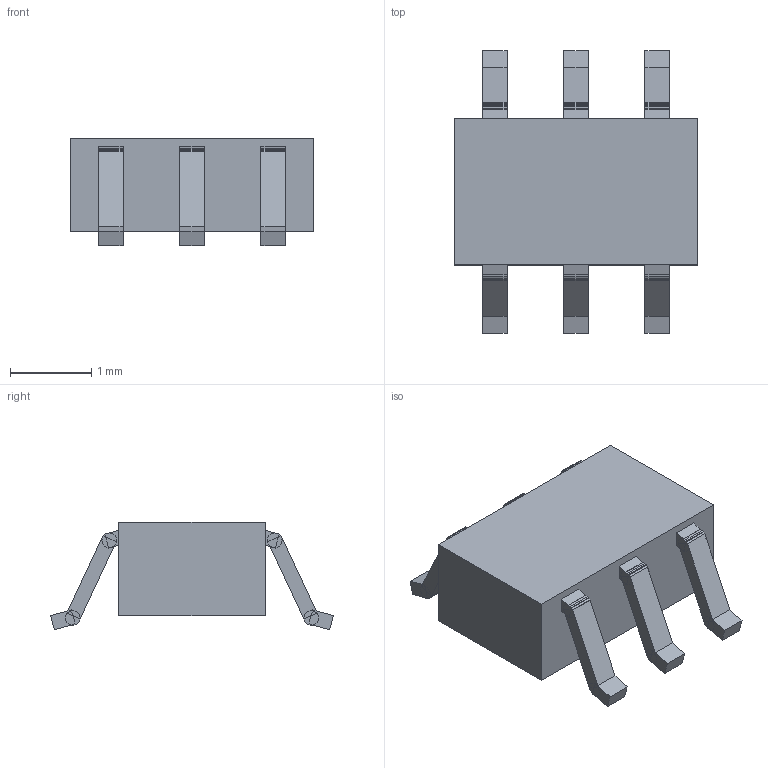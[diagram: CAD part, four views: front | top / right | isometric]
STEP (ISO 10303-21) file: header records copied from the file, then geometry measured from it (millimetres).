
FILE_DESCRIPTION(('FreeCAD Model'),'2;1');
FILE_NAME('Open CASCADE Shape Model','2021-06-28T19:53:20',('Author'),( ''),'Open CASCADE STEP processor 7.5','FreeCAD','Unknown');
FILE_SCHEMA(('AUTOMOTIVE_DESIGN { 1 0 10303 214 1 1 1 1 }'));
Length unit declared in the file: millimetre
Products named in the file (1): Group007
Bounding box: 3 x 3.49 x 1.32 mm (x, y, z)
Volume: 6.7 mm3; surface area: 30.1 mm2
Topology: 1 solids, 1 shells, 342 faces, 1158 edges, 824 vertices
Faces by surface type: plane 342
Entity records: 29838 total; most frequent: CARTESIAN_POINT 4785, DIRECTION 4016, LINE 3330, VECTOR 3330, ORIENTED_EDGE 2316, PCURVE 2316, DEFINITIONAL_REPRESENTATION 2316, EDGE_CURVE 1158
